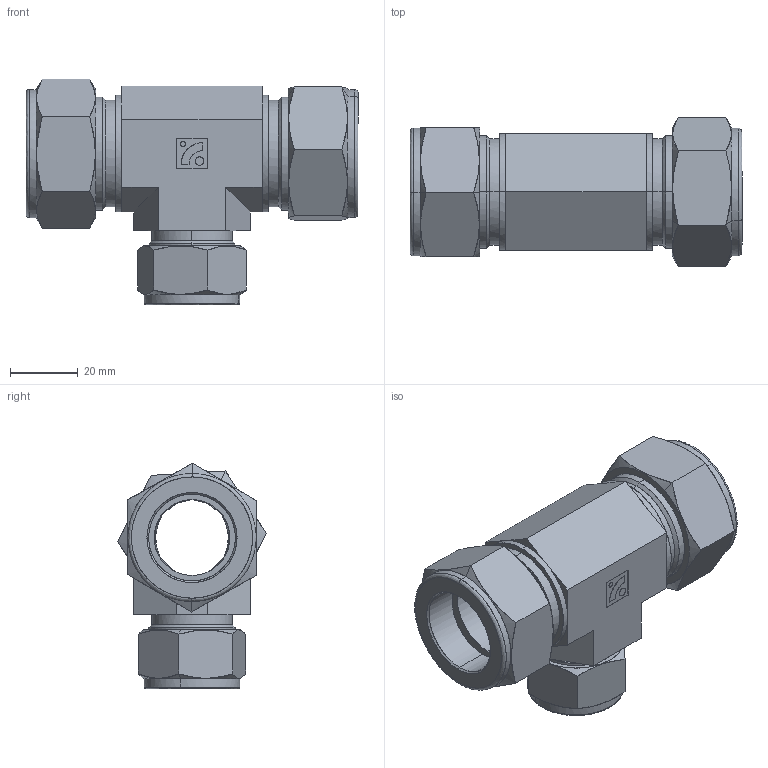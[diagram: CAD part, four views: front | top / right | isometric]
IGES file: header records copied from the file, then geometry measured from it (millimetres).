
Start section: Comment
Global section: file name: SRUT16-16-12.igs; native system:  By UGS Corp.; preprocessor: XPlus GENERIC/IGES 3.0; author: Author; organization: Title; date: 20100713.193933; units: millimetre
Bounding box: 98.05 x 43.92 x 66.7 mm (x, y, z)
Surface area: 33766.4 mm2 (no closed solid volume)
Topology: 0 solids, 0 shells, 181 faces, 792 edges, 792 vertices
Faces by surface type: bspline 181
